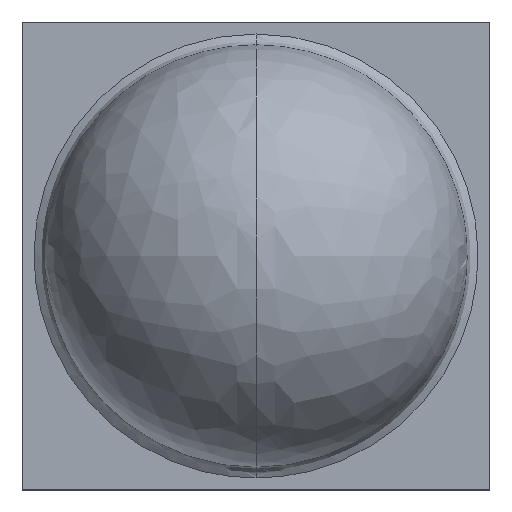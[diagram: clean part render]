
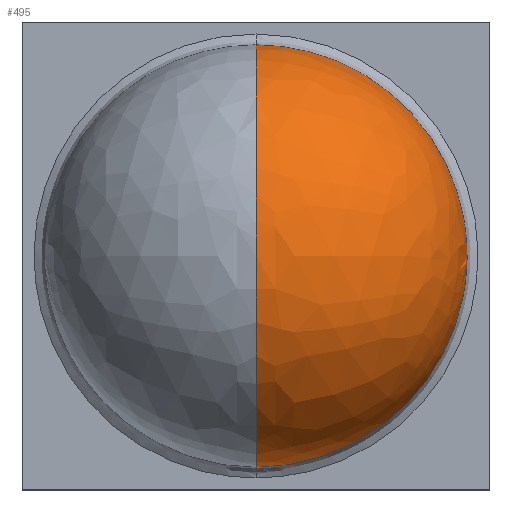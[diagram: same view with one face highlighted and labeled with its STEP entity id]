
A CAD part, top view. The second image highlights one B-rep face of the part: STEP entity #495.
In plain terms, the highlighted free-form (B-spline) face has degree [2, 2] with [9, 5] control points.
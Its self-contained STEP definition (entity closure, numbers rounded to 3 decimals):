
#52=(
BOUNDED_CURVE()
B_SPLINE_CURVE(2,(#5412,#5413,#5414),.UNSPECIFIED.,.F.,.F.)
B_SPLINE_CURVE_WITH_KNOTS((3,3),(0.,4.247),.UNSPECIFIED.)
CURVE()
GEOMETRIC_REPRESENTATION_ITEM()
RATIONAL_B_SPLINE_CURVE((1.,0.729,1.))
REPRESENTATION_ITEM('')
);
#53=(
BOUNDED_CURVE()
B_SPLINE_CURVE(2,(#5415,#5416,#5417),.UNSPECIFIED.,.F.,.F.)
B_SPLINE_CURVE_WITH_KNOTS((3,3),(0.,4.247),.UNSPECIFIED.)
CURVE()
GEOMETRIC_REPRESENTATION_ITEM()
RATIONAL_B_SPLINE_CURVE((1.,0.729,1.))
REPRESENTATION_ITEM('')
);
#59=(
BOUNDED_CURVE()
B_SPLINE_CURVE(2,(#5439,#5440,#5441,#5442,#5443),.UNSPECIFIED.,.F.,.F.)
B_SPLINE_CURVE_WITH_KNOTS((3,2,3),(-9.023,-4.511,
0.),.UNSPECIFIED.)
CURVE()
GEOMETRIC_REPRESENTATION_ITEM()
RATIONAL_B_SPLINE_CURVE((1.,0.707,1.,0.707,1.))
REPRESENTATION_ITEM('')
);
#174=(
BOUNDED_SURFACE()
B_SPLINE_SURFACE(2,2,((#5141,#5142,#5143,#5144,#5145),(#5146,#5147,#5148,
#5149,#5150),(#5151,#5152,#5153,#5154,#5155),(#5156,#5157,#5158,#5159,#5160),
(#5161,#5162,#5163,#5164,#5165),(#5166,#5167,#5168,#5169,#5170),(#5171,
#5172,#5173,#5174,#5175),(#5176,#5177,#5178,#5179,#5180),(#5181,#5182,#5183,
#5184,#5185)),.UNSPECIFIED.,.T.,.F.,.F.)
B_SPLINE_SURFACE_WITH_KNOTS((3,2,2,2,3),(3,2,3),(0.,1.571,3.142,
4.712,6.283),(-1.571,0.,1.571),
 .UNSPECIFIED.)
GEOMETRIC_REPRESENTATION_ITEM()
RATIONAL_B_SPLINE_SURFACE(((1.,0.707,1.,0.707,1.),
(0.707,0.5,0.707,0.5,0.707),(1.,0.707,
1.,0.707,1.),(0.707,0.5,0.707,0.5,0.707),
(1.,0.707,1.,0.707,1.),(0.707,0.5,0.707,
0.5,0.707),(1.,0.707,1.,0.707,1.),(0.707,
0.5,0.707,0.5,0.707),(1.,0.707,1.,0.707,
1.)))
REPRESENTATION_ITEM('')
SURFACE()
);
#495=ADVANCED_FACE('',(#687),#174,.T.);
#687=FACE_OUTER_BOUND('',#877,.T.);
#877=EDGE_LOOP('',(#1374,#1375,#1376));
#1374=ORIENTED_EDGE('',*,*,#2007,.T.);
#1375=ORIENTED_EDGE('',*,*,#2008,.T.);
#1376=ORIENTED_EDGE('',*,*,#2014,.T.);
#2007=EDGE_CURVE('',#2636,#2637,#52,.T.);
#2008=EDGE_CURVE('',#2637,#2638,#53,.T.);
#2014=EDGE_CURVE('',#2638,#2636,#59,.T.);
#2636=VERTEX_POINT('',#5399);
#2637=VERTEX_POINT('',#5400);
#2638=VERTEX_POINT('',#5401);
#5141=CARTESIAN_POINT('',(-2.26,0.,-0.04));
#5142=CARTESIAN_POINT('',(-2.26,2.26,-0.04));
#5143=CARTESIAN_POINT('',(0.,2.26,-0.04));
#5144=CARTESIAN_POINT('',(2.26,2.26,-0.04));
#5145=CARTESIAN_POINT('',(2.26,0.,-0.04));
#5146=CARTESIAN_POINT('',(-2.26,0.,-0.04));
#5147=CARTESIAN_POINT('',(-2.26,2.26,2.22));
#5148=CARTESIAN_POINT('',(0.,2.26,2.22));
#5149=CARTESIAN_POINT('',(2.26,2.26,2.22));
#5150=CARTESIAN_POINT('',(2.26,0.,-0.04));
#5151=CARTESIAN_POINT('',(-2.26,0.,-0.04));
#5152=CARTESIAN_POINT('',(-2.26,0.,2.22));
#5153=CARTESIAN_POINT('',(0.,0.,2.22));
#5154=CARTESIAN_POINT('',(2.26,0.,2.22));
#5155=CARTESIAN_POINT('',(2.26,0.,-0.04));
#5156=CARTESIAN_POINT('',(-2.26,0.,-0.04));
#5157=CARTESIAN_POINT('',(-2.26,-2.26,2.22));
#5158=CARTESIAN_POINT('',(0.,-2.26,2.22));
#5159=CARTESIAN_POINT('',(2.26,-2.26,2.22));
#5160=CARTESIAN_POINT('',(2.26,0.,-0.04));
#5161=CARTESIAN_POINT('',(-2.26,0.,-0.04));
#5162=CARTESIAN_POINT('',(-2.26,-2.26,-0.04));
#5163=CARTESIAN_POINT('',(0.,-2.26,-0.04));
#5164=CARTESIAN_POINT('',(2.26,-2.26,-0.04));
#5165=CARTESIAN_POINT('',(2.26,0.,-0.04));
#5166=CARTESIAN_POINT('',(-2.26,0.,-0.04));
#5167=CARTESIAN_POINT('',(-2.26,-2.26,-2.3));
#5168=CARTESIAN_POINT('',(0.,-2.26,-2.3));
#5169=CARTESIAN_POINT('',(2.26,-2.26,-2.3));
#5170=CARTESIAN_POINT('',(2.26,0.,-0.04));
#5171=CARTESIAN_POINT('',(-2.26,0.,-0.04));
#5172=CARTESIAN_POINT('',(-2.26,0.,-2.3));
#5173=CARTESIAN_POINT('',(0.,0.,-2.3));
#5174=CARTESIAN_POINT('',(2.26,0.,-2.3));
#5175=CARTESIAN_POINT('',(2.26,0.,-0.04));
#5176=CARTESIAN_POINT('',(-2.26,0.,-0.04));
#5177=CARTESIAN_POINT('',(-2.26,2.26,-2.3));
#5178=CARTESIAN_POINT('',(0.,2.26,-2.3));
#5179=CARTESIAN_POINT('',(2.26,2.26,-2.3));
#5180=CARTESIAN_POINT('',(2.26,0.,-0.04));
#5181=CARTESIAN_POINT('',(-2.26,0.,-0.04));
#5182=CARTESIAN_POINT('',(-2.26,2.26,-0.04));
#5183=CARTESIAN_POINT('',(0.,2.26,-0.04));
#5184=CARTESIAN_POINT('',(2.26,2.26,-0.04));
#5185=CARTESIAN_POINT('',(2.26,0.,-0.04));
#5399=CARTESIAN_POINT('',(0.,2.256,0.1));
#5400=CARTESIAN_POINT('',(0.,0.,2.22));
#5401=CARTESIAN_POINT('',(0.,-2.256,0.1));
#5412=CARTESIAN_POINT('',(0.,2.256,0.1));
#5413=CARTESIAN_POINT('',(0.,2.124,2.22));
#5414=CARTESIAN_POINT('',(0.,0.,2.22));
#5415=CARTESIAN_POINT('',(0.,0.,2.22));
#5416=CARTESIAN_POINT('',(0.,-2.124,2.22));
#5417=CARTESIAN_POINT('',(0.,-2.256,0.1));
#5439=CARTESIAN_POINT('',(0.,-2.256,0.1));
#5440=CARTESIAN_POINT('',(2.256,-2.256,0.1));
#5441=CARTESIAN_POINT('',(2.256,0.,0.1));
#5442=CARTESIAN_POINT('',(2.256,2.256,0.1));
#5443=CARTESIAN_POINT('',(0.,2.256,0.1));
